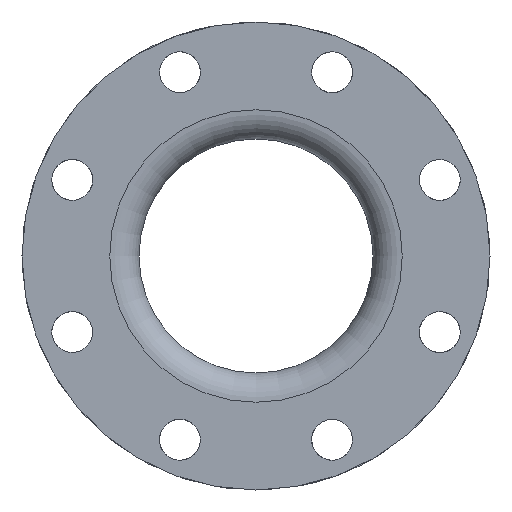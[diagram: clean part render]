
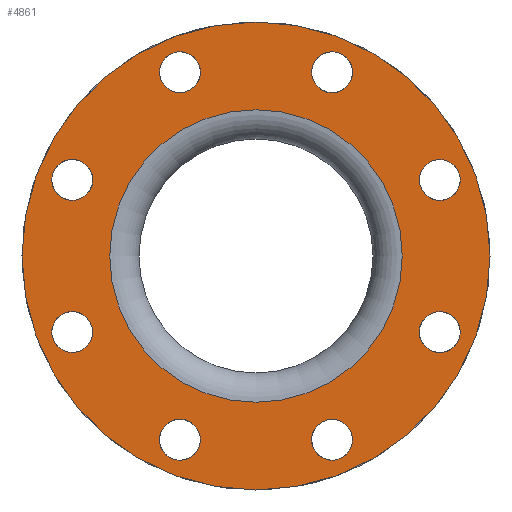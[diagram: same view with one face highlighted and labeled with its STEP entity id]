
A CAD part, front view. The second image highlights one B-rep face of the part: STEP entity #4861.
In plain terms, the highlighted planar face has unit normal (0, -1, 0).
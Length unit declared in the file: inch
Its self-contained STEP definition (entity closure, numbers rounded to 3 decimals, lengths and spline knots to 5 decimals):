
#107=PLANE('',#5526);
#230=FACE_BOUND('',#1337,.T.);
#231=FACE_BOUND('',#1338,.T.);
#232=FACE_BOUND('',#1339,.T.);
#233=FACE_BOUND('',#1340,.T.);
#234=FACE_BOUND('',#1341,.T.);
#235=FACE_BOUND('',#1342,.T.);
#236=FACE_BOUND('',#1343,.T.);
#237=FACE_BOUND('',#1344,.T.);
#238=FACE_BOUND('',#1345,.T.);
#956=FACE_OUTER_BOUND('',#1336,.T.);
#1336=EDGE_LOOP('',(#4150));
#1337=EDGE_LOOP('',(#4151));
#1338=EDGE_LOOP('',(#4152));
#1339=EDGE_LOOP('',(#4153));
#1340=EDGE_LOOP('',(#4154));
#1341=EDGE_LOOP('',(#4155));
#1342=EDGE_LOOP('',(#4156));
#1343=EDGE_LOOP('',(#4157));
#1344=EDGE_LOOP('',(#4158));
#1345=EDGE_LOOP('',(#4159));
#1709=CIRCLE('',#5459,0.4375);
#1711=CIRCLE('',#5462,0.4375);
#1713=CIRCLE('',#5465,0.4375);
#1715=CIRCLE('',#5468,0.4375);
#1717=CIRCLE('',#5471,0.4375);
#1719=CIRCLE('',#5474,0.4375);
#1721=CIRCLE('',#5477,0.4375);
#1723=CIRCLE('',#5480,0.4375);
#1750=CIRCLE('',#5525,5.);
#1751=CIRCLE('',#5527,3.125);
#2169=VERTEX_POINT('',#8557);
#2171=VERTEX_POINT('',#8562);
#2173=VERTEX_POINT('',#8567);
#2175=VERTEX_POINT('',#8572);
#2177=VERTEX_POINT('',#8577);
#2179=VERTEX_POINT('',#8582);
#2181=VERTEX_POINT('',#8587);
#2183=VERTEX_POINT('',#8592);
#2210=VERTEX_POINT('',#8664);
#2211=VERTEX_POINT('',#8667);
#2819=EDGE_CURVE('',#2169,#2169,#1709,.T.);
#2821=EDGE_CURVE('',#2171,#2171,#1711,.T.);
#2823=EDGE_CURVE('',#2173,#2173,#1713,.T.);
#2825=EDGE_CURVE('',#2175,#2175,#1715,.T.);
#2827=EDGE_CURVE('',#2177,#2177,#1717,.T.);
#2829=EDGE_CURVE('',#2179,#2179,#1719,.T.);
#2831=EDGE_CURVE('',#2181,#2181,#1721,.T.);
#2833=EDGE_CURVE('',#2183,#2183,#1723,.T.);
#2860=EDGE_CURVE('',#2210,#2210,#1750,.T.);
#2861=EDGE_CURVE('',#2211,#2211,#1751,.T.);
#4150=ORIENTED_EDGE('',*,*,#2860,.T.);
#4151=ORIENTED_EDGE('',*,*,#2819,.T.);
#4152=ORIENTED_EDGE('',*,*,#2821,.T.);
#4153=ORIENTED_EDGE('',*,*,#2823,.T.);
#4154=ORIENTED_EDGE('',*,*,#2825,.T.);
#4155=ORIENTED_EDGE('',*,*,#2827,.T.);
#4156=ORIENTED_EDGE('',*,*,#2829,.T.);
#4157=ORIENTED_EDGE('',*,*,#2831,.T.);
#4158=ORIENTED_EDGE('',*,*,#2833,.T.);
#4159=ORIENTED_EDGE('',*,*,#2861,.F.);
#4861=ADVANCED_FACE('',(#956,#230,#231,#232,#233,#234,#235,#236,#237,#238),
#107,.T.);
#5459=AXIS2_PLACEMENT_3D('',#8558,#6945,#6946);
#5462=AXIS2_PLACEMENT_3D('',#8563,#6951,#6952);
#5465=AXIS2_PLACEMENT_3D('',#8568,#6957,#6958);
#5468=AXIS2_PLACEMENT_3D('',#8573,#6963,#6964);
#5471=AXIS2_PLACEMENT_3D('',#8578,#6969,#6970);
#5474=AXIS2_PLACEMENT_3D('',#8583,#6975,#6976);
#5477=AXIS2_PLACEMENT_3D('',#8588,#6981,#6982);
#5480=AXIS2_PLACEMENT_3D('',#8593,#6987,#6988);
#5525=AXIS2_PLACEMENT_3D('',#8665,#7077,#7078);
#5526=AXIS2_PLACEMENT_3D('',#8666,#7079,#7080);
#5527=AXIS2_PLACEMENT_3D('',#8668,#7081,#7082);
#6945=DIRECTION('center_axis',(0.,1.,0.));
#6946=DIRECTION('ref_axis',(0.707,0.,0.707));
#6951=DIRECTION('center_axis',(0.,1.,0.));
#6952=DIRECTION('ref_axis',(1.,0.,0.));
#6957=DIRECTION('center_axis',(0.,1.,0.));
#6958=DIRECTION('ref_axis',(0.707,0.,-0.707));
#6963=DIRECTION('center_axis',(0.,1.,0.));
#6964=DIRECTION('ref_axis',(0.,0.,
-1.));
#6969=DIRECTION('center_axis',(0.,1.,0.));
#6970=DIRECTION('ref_axis',(-0.707,0.,-0.707));
#6975=DIRECTION('center_axis',(0.,1.,0.));
#6976=DIRECTION('ref_axis',(-1.,0.,0.));
#6981=DIRECTION('center_axis',(0.,1.,0.));
#6982=DIRECTION('ref_axis',(-0.707,0.,0.707));
#6987=DIRECTION('center_axis',(0.,1.,0.));
#6988=DIRECTION('ref_axis',(0.,0.,1.));
#7077=DIRECTION('center_axis',(0.,-1.,0.));
#7078=DIRECTION('ref_axis',(1.,0.,0.));
#7079=DIRECTION('center_axis',(0.,-1.,0.));
#7080=DIRECTION('ref_axis',(0.,0.,-1.));
#7081=DIRECTION('center_axis',(0.,-1.,0.));
#7082=DIRECTION('ref_axis',(1.,0.,0.));
#8557=CARTESIAN_POINT('',(3.61713,-12.,-1.93576));
#8558=CARTESIAN_POINT('Origin',(3.92649,-12.,-1.6264));
#8562=CARTESIAN_POINT('',(1.1889,-12.,-3.92649));
#8563=CARTESIAN_POINT('Origin',(1.6264,-12.,-3.92649));
#8567=CARTESIAN_POINT('',(-1.93576,-12.,-3.61713));
#8568=CARTESIAN_POINT('Origin',(-1.6264,-12.,-3.92649));
#8572=CARTESIAN_POINT('',(-3.92649,-12.,-1.1889));
#8573=CARTESIAN_POINT('Origin',(-3.92649,-12.,-1.6264));
#8577=CARTESIAN_POINT('',(-3.61713,-12.,1.93576));
#8578=CARTESIAN_POINT('Origin',(-3.92649,-12.,1.6264));
#8582=CARTESIAN_POINT('',(-1.1889,-12.,3.92649));
#8583=CARTESIAN_POINT('Origin',(-1.6264,-12.,3.92649));
#8587=CARTESIAN_POINT('',(1.93576,-12.,3.61713));
#8588=CARTESIAN_POINT('Origin',(1.6264,-12.,3.92649));
#8592=CARTESIAN_POINT('',(3.92649,-12.,1.1889));
#8593=CARTESIAN_POINT('Origin',(3.92649,-12.,1.6264));
#8664=CARTESIAN_POINT('',(5.,-12.,0.));
#8665=CARTESIAN_POINT('Origin',(0.,-12.,0.));
#8666=CARTESIAN_POINT('Origin',(4.0625,-12.,0.));
#8667=CARTESIAN_POINT('',(3.125,-12.,0.));
#8668=CARTESIAN_POINT('Origin',(0.,-12.,0.));
